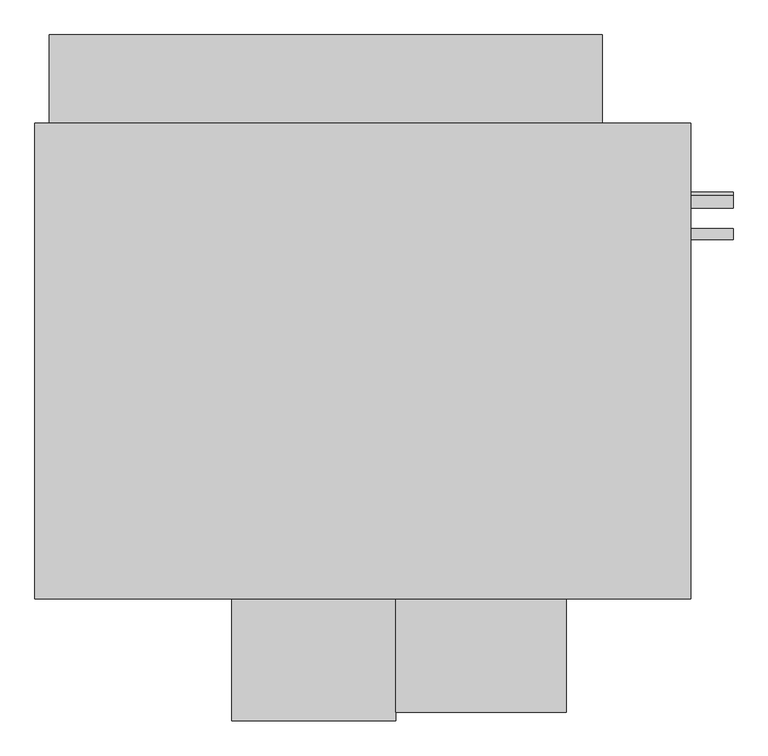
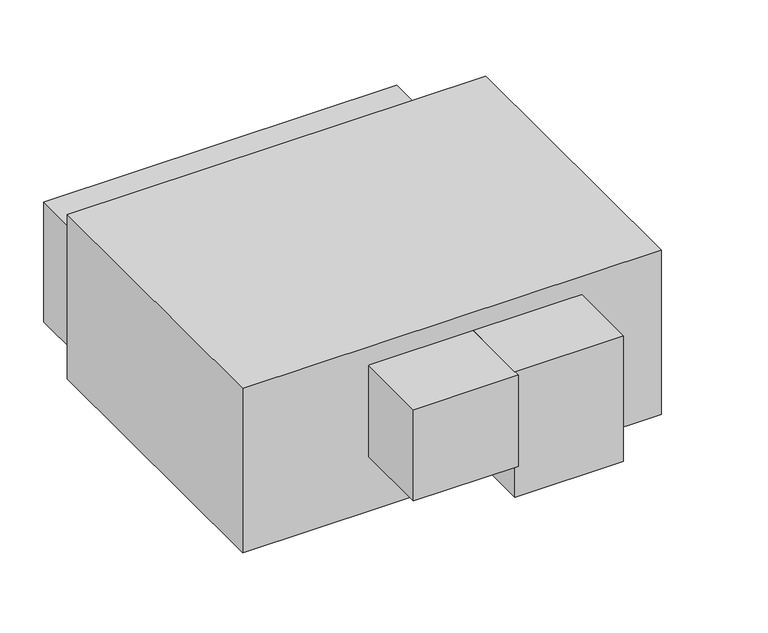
"""IFC4 building model written with IfcOpenShell, lengths in millimetres: proxy geometry, Horizontal_Direct_Drive_Blower_Coil_Unit_-_42DHA_-_CARRIER_-_2-Pipe_Cool-EHeat_RH_2022 : Size 16 - 460v/60Hz/3Ph - 8 Row 16.0kW."""

from ifc_helpers import new_model, si_unit, point, frame, frame_2d, origin, place, context, project, spatial, polyline, circle_curve, trimmed, segment, composite_curve, outline, extrude, source, transform, mapped, element, save


def mechanical_equipment_eb9e6e73(model_context):
    return source(origin(), model_context, "Body", "SweptSolid", [
        extrude(outline(polyline([(254.0, 492.125), (254.0, -466.725), (-1066.8, -466.725), (-1066.8, 492.125), (254.0, 492.125)])), frame((0.0, 0.0, -549.2558174), z_axis=(0.0, 0.0, 1.0), x_axis=(1.0, 0.0, 0.0)), (0.0, 0.0, 1.0), 549.2558174),
        extrude(outline(polyline([(3.175, -695.325), (-339.725, -695.325), (-339.725, -466.725), (3.175, -466.725), (3.175, -695.325)])), frame((0.0, 0.0, -479.4058174), z_axis=(0.0, 0.0, 1.0), x_axis=(1.0, 0.0, 0.0)), (0.0, 0.0, 1.0), 419.1),
        extrude(outline(composite_curve([segment(trimmed(circle_curve(frame_2d((333.375, -177.8)), 12.7), [point((346.075, -177.8))], [point((320.675, -177.8))], False, "CARTESIAN"), True, "CONTINUOUS"), segment(trimmed(circle_curve(frame_2d((333.375, -177.8)), 12.7), [point((320.675, -177.8))], [point((346.075, -177.8))], False, "CARTESIAN"), True, "CONTINUOUS")], self_intersect=False)), frame((254.0, 0.0, 0.0), z_axis=(1.0, 0.0, 0.0), x_axis=(0.0, 1.0, 0.0)), (0.0, 0.0, 1.0), 85.2932),
        extrude(outline(composite_curve([segment(trimmed(circle_curve(frame_2d((340.130856, -422.2558174)), 12.7), [point((352.830856, -422.2558174))], [point((327.430856, -422.2558174))], False, "CARTESIAN"), True, "CONTINUOUS"), segment(trimmed(circle_curve(frame_2d((340.130856, -422.2558174)), 12.7), [point((327.430856, -422.2558174))], [point((352.830856, -422.2558174))], False, "CARTESIAN"), True, "CONTINUOUS")], self_intersect=False)), frame((254.0, 0.0, 0.0), z_axis=(1.0, 0.0, 0.0), x_axis=(0.0, 1.0, 0.0)), (0.0, 0.0, 1.0), 85.2932),
        extrude(outline(composite_curve([segment(trimmed(circle_curve(frame_2d((268.4630494, -504.8058174)), 11.1125), [point((279.5755494, -504.8058174))], [point((257.3505494, -504.8058174))], False, "CARTESIAN"), True, "CONTINUOUS"), segment(trimmed(circle_curve(frame_2d((268.4630494, -504.8058174)), 11.1125), [point((257.3505494, -504.8058174))], [point((279.5755494, -504.8058174))], False, "CARTESIAN"), True, "CONTINUOUS")], self_intersect=False)), frame((254.0, 0.0, 0.0), z_axis=(1.0, 0.0, 0.0), x_axis=(0.0, 1.0, 0.0)), (0.0, 0.0, 1.0), 85.2932),
        extrude(outline(polyline([(-1038.225, 669.925), (76.2, 669.925), (76.2, 492.125), (-1038.225, 492.125), (-1038.225, 669.925)])), frame((0.0, 0.0, -476.2308174), z_axis=(0.0, 0.0, 1.0), x_axis=(1.0, 0.0, 0.0)), (0.0, 0.0, 1.0), 400.05),
        extrude(outline(polyline([(-339.725, -712.7875), (-669.925, -712.7875), (-669.925, -466.725), (-339.725, -466.725), (-339.725, -712.7875)])), frame((0.0, 0.0, -365.1058174), z_axis=(0.0, 0.0, 1.0), x_axis=(1.0, 0.0, 0.0)), (0.0, 0.0, 1.0), 304.8),
    ])


if __name__ == "__main__":
    model = new_model("IFC4")
    model_context = context("Model", 3, world=origin())
    ifc_project = project(units=[si_unit("LENGTHUNIT", "METRE", prefix="MILLI")], contexts=[model_context])
    site = spatial("IfcSite", under=ifc_project)
    building = spatial("IfcBuilding", under=site)
    placement = place(None, origin())
    mechanical_equipment_shape = mechanical_equipment_eb9e6e73(model_context)
    element("IfcBuildingElementProxy", 1, Name="Horizontal_Direct_Drive_Blower_Coil_Unit_-_42DHA_-_CARRIER_-_2-Pipe_Cool-EHeat_RH_2022 : Size 16 - 460v/60Hz/3Ph - 8 Row 16.0kW", ObjectType="Horizontal_Direct_Drive_Blower_Coil_Unit_-_42DHA_-_CARRIER_-_2-Pipe_Cool-EHeat_RH_2022 : Size 16 - 460v/60Hz/3Ph - 8 Row 16.0kW", at=placement, inside=building, context=model_context, shape_type="MappedRepresentation", body=[
        mapped(mechanical_equipment_shape, transform((0.0, 0.0, 0.0), x_axis=(1.0, 0.0, 0.0), y_axis=(0.0, 1.0, 0.0), z_axis=(0.0, 0.0, 1.0))),
    ])
    save(model, "model.ifc")
